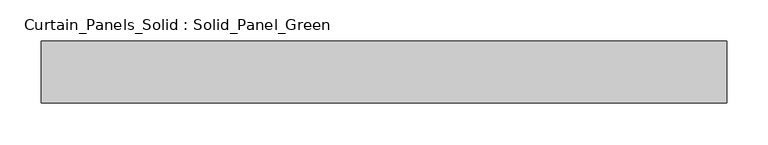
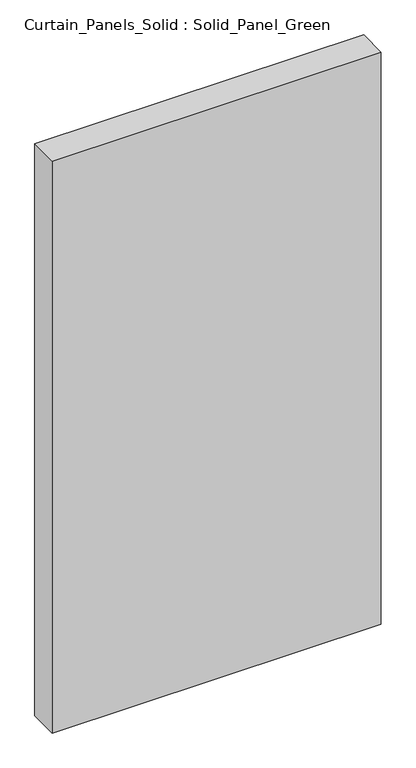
"""IFC4 building model written with IfcOpenShell, lengths in millimetres: plate geometry, Curtain_Panels_Solid : Solid_Panel_Green."""

from ifc_helpers import new_model, si_unit, origin, origin_with_axes, place, context, project, spatial, polyline, outline, extrude, source, transform, mapped, element, save


def curtain_panels_solid_solid_panel_green_a5cb1202(model_context):
    return source(origin(), model_context, "Body", "SweptSolid", [
        extrude(outline(polyline([(414.0625001, 25.0), (414.0625001, -50.0), (-414.0625001, -50.0), (-414.0625001, 25.0), (414.0625001, 25.0)])), origin_with_axes(), (0.0, 0.0, 1.0), 1521.4285714),
    ])


if __name__ == "__main__":
    model = new_model("IFC4")
    model_context = context("Model", 3, world=origin())
    ifc_project = project(units=[si_unit("LENGTHUNIT", "METRE", prefix="MILLI")], contexts=[model_context])
    site = spatial("IfcSite", under=ifc_project)
    building = spatial("IfcBuilding", under=site)
    placement = place(None, origin())
    curtain_panels_solid_solid_panel_green_shape = curtain_panels_solid_solid_panel_green_a5cb1202(model_context)
    element("IfcPlate", 1, ObjectType="Curtain_Panels_Solid : Solid_Panel_Green", at=placement, inside=building, context=model_context, shape_type="MappedRepresentation", body=[
        mapped(curtain_panels_solid_solid_panel_green_shape, transform((0.0, 0.0, 0.0), x_axis=(1.0, 0.0, 0.0), y_axis=(0.0, 1.0, 0.0), z_axis=(0.0, 0.0, 1.0))),
    ])
    save(model, "model.ifc")
